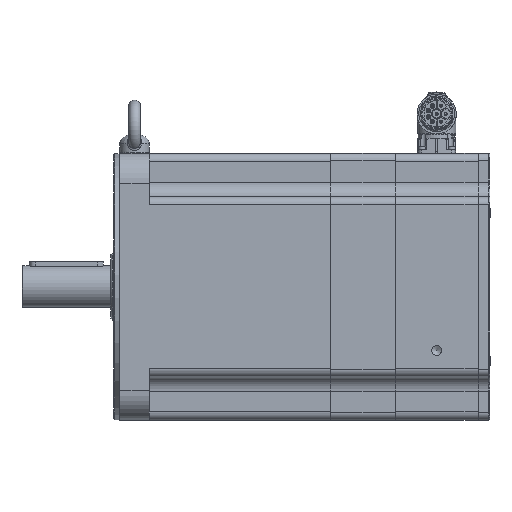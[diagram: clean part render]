
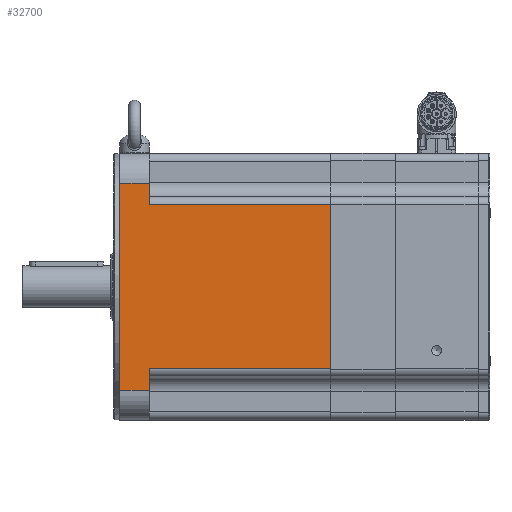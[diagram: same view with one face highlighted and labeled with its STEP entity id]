
A CAD part, left-side view. The second image highlights one B-rep face of the part: STEP entity #32700.
In plain terms, the highlighted planar face has unit normal (-1, 0, 0) as drawn and (1, 0, 0) by its records, which use the part's own axes.
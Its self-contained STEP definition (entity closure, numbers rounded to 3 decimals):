
#2437=PLANE('',#46610);
#12865=ORIENTED_EDGE('',*,*,#17647,.F.);
#12866=ORIENTED_EDGE('',*,*,#17715,.T.);
#12867=ORIENTED_EDGE('',*,*,#17683,.F.);
#12868=ORIENTED_EDGE('',*,*,#17716,.T.);
#12869=ORIENTED_EDGE('',*,*,#17717,.F.);
#12870=ORIENTED_EDGE('',*,*,#17718,.T.);
#12871=ORIENTED_EDGE('',*,*,#17703,.F.);
#12872=ORIENTED_EDGE('',*,*,#17719,.T.);
#17647=EDGE_CURVE('',#20949,#20950,#23171,.T.);
#17683=EDGE_CURVE('',#20985,#20986,#23185,.T.);
#17703=EDGE_CURVE('',#21005,#21006,#23192,.T.);
#17715=EDGE_CURVE('',#20949,#20986,#23200,.F.);
#17716=EDGE_CURVE('',#20985,#21013,#23201,.T.);
#17717=EDGE_CURVE('',#21014,#21013,#23202,.T.);
#17718=EDGE_CURVE('',#21014,#21006,#23203,.F.);
#17719=EDGE_CURVE('',#21005,#20950,#23204,.T.);
#20949=VERTEX_POINT('',#74879);
#20950=VERTEX_POINT('',#74881);
#20985=VERTEX_POINT('',#74960);
#20986=VERTEX_POINT('',#74962);
#21005=VERTEX_POINT('',#75007);
#21006=VERTEX_POINT('',#75008);
#21013=VERTEX_POINT('',#75032);
#21014=VERTEX_POINT('',#75034);
#23171=LINE('',#74880,#25343);
#23185=LINE('',#74961,#25357);
#23192=LINE('',#75006,#25364);
#23200=LINE('',#75030,#25372);
#23201=LINE('',#75031,#25373);
#23202=LINE('',#75033,#25374);
#23203=LINE('',#75035,#25375);
#23204=LINE('',#75036,#25376);
#25343=VECTOR('',#55309,1000.);
#25357=VECTOR('',#55385,1000.);
#25364=VECTOR('',#55430,1000.);
#25372=VECTOR('',#55454,1000.);
#25373=VECTOR('',#55455,1000.);
#25374=VECTOR('',#55456,1000.);
#25375=VECTOR('',#55457,1000.);
#25376=VECTOR('',#55458,1000.);
#27744=EDGE_LOOP('',(#12865,#12866,#12867,#12868,#12869,#12870,#12871,#12872));
#30217=FACE_BOUND('',#27744,.T.);
#32700=ADVANCED_FACE('',(#30217),#2437,.T.);
#46610=AXIS2_PLACEMENT_3D('',#75029,#55452,#55453);
#55309=DIRECTION('',(0.,0.,-1.));
#55385=DIRECTION('',(0.,0.,-1.));
#55430=DIRECTION('',(0.,0.,-1.));
#55452=DIRECTION('',(1.,0.,0.));
#55453=DIRECTION('',(0.,1.,0.));
#55454=DIRECTION('',(0.,1.,0.));
#55455=DIRECTION('',(0.,-1.,0.));
#55456=DIRECTION('',(0.,0.,1.));
#55457=DIRECTION('',(0.,-1.,0.));
#55458=DIRECTION('',(0.,1.,0.));
#74879=CARTESIAN_POINT('',(90.,143.8,55.2));
#74880=CARTESIAN_POINT('',(90.,143.8,-90.));
#74881=CARTESIAN_POINT('',(90.,143.8,-55.2));
#74960=CARTESIAN_POINT('',(90.,21.3,70.));
#74961=CARTESIAN_POINT('',(90.,21.3,-90.));
#74962=CARTESIAN_POINT('',(90.,21.3,55.2));
#75006=CARTESIAN_POINT('',(90.,21.3,-90.));
#75007=CARTESIAN_POINT('',(90.,21.3,-55.2));
#75008=CARTESIAN_POINT('',(90.,21.3,-70.));
#75029=CARTESIAN_POINT('',(90.,491.763,-90.));
#75030=CARTESIAN_POINT('',(90.,491.763,55.2));
#75031=CARTESIAN_POINT('',(90.,491.763,70.));
#75032=CARTESIAN_POINT('',(90.,1.3,70.));
#75033=CARTESIAN_POINT('',(90.,1.3,-90.));
#75034=CARTESIAN_POINT('',(90.,1.3,-70.));
#75035=CARTESIAN_POINT('',(90.,491.763,-70.));
#75036=CARTESIAN_POINT('',(90.,491.763,-55.2));
